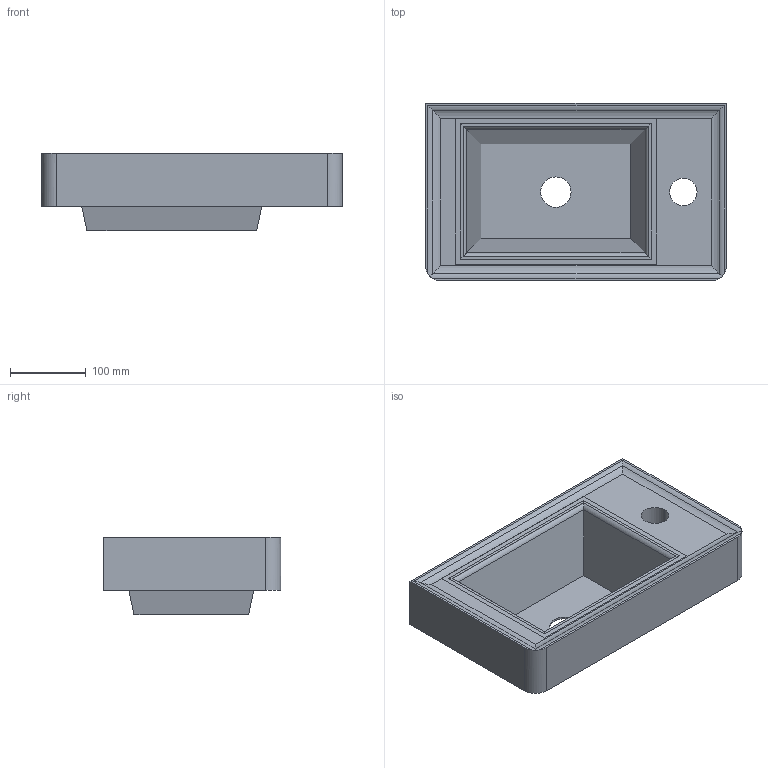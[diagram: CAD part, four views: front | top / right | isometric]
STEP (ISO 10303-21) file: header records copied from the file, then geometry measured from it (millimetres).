
FILE_DESCRIPTION(('FreeCAD Model'),'2;1');
FILE_NAME('Open CASCADE Shape Model','2024-11-19T16:08:11',('Author'),( ''),'Open CASCADE STEP processor 7.6','FreeCAD','Unknown');
FILE_SCHEMA(('AUTOMOTIVE_DESIGN { 1 0 10303 214 1 1 1 1 }'));
Length unit declared in the file: millimetre
Products named in the file (4): TopLevelAssembly; Połączona geometria bryłowa; Połączona geometria bryłowa001; Wyciąganie001
Assembly tree (3 placements, depth 2):
  TopLevelAssembly
    Połączona geometria bryłowa
    Połączona geometria bryłowa001
    Wyciąganie001
Bounding box: 397 x 234 x 102 mm (x, y, z)
Volume: 4350412.5 mm3; surface area: 470221.2 mm2
Topology: 3 solids, 3 shells, 49 faces, 116 edges, 72 vertices
Faces by surface type: plane 31, cylinder 18
Entity records: 1516 total; most frequent: CARTESIAN_POINT 269, DIRECTION 244, ORIENTED_EDGE 232, EDGE_CURVE 116, LINE 86, VECTOR 86, AXIS2_PLACEMENT_3D 79, VERTEX_POINT 72
